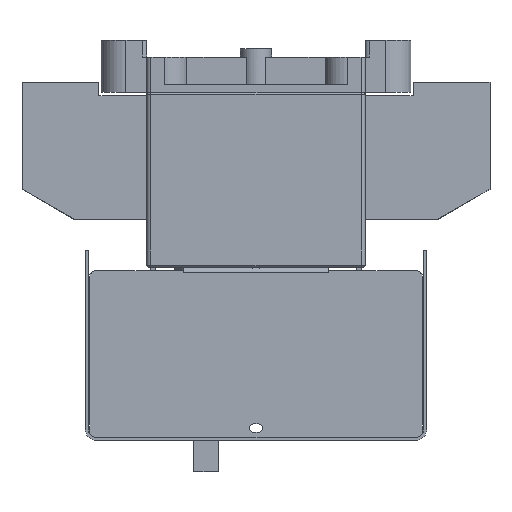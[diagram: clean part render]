
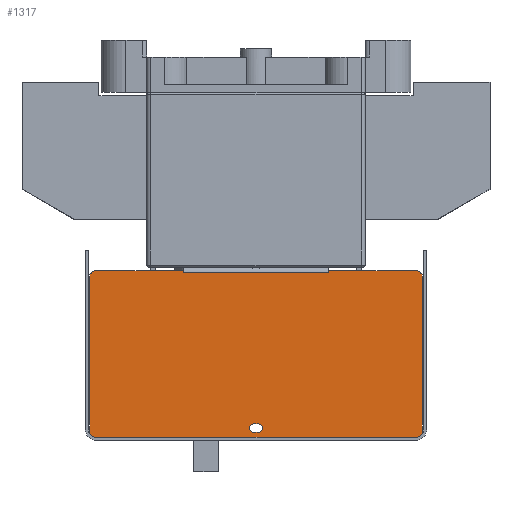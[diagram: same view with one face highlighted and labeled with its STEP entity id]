
A CAD part, left-side view. The second image highlights one B-rep face of the part: STEP entity #1317.
In plain terms, the highlighted planar face has unit normal (-1, 0, 0).
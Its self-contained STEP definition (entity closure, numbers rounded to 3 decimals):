
#170=FACE_BOUND('',#4569,.T.);
#171=FACE_BOUND('',#4570,.T.);
#1317=ADVANCED_FACE('',(#170,#171),#2303,.T.);
#2303=PLANE('',#24284);
#4569=EDGE_LOOP('',(#9419,#9420,#9421,#9422,#9423,#9424,#9425,#9426,#9427,
#9428,#9429,#9430,#9431,#9432));
#4570=EDGE_LOOP('',(#9433,#9434,#9435,#9436));
#5667=CIRCLE('',#24262,2.1);
#5669=CIRCLE('',#24266,2.1);
#5671=CIRCLE('',#24270,3.);
#5673=CIRCLE('',#24273,3.);
#5675=CIRCLE('',#24277,3.);
#5677=CIRCLE('',#24281,3.);
#9419=ORIENTED_EDGE('',*,*,#16539,.F.);
#9420=ORIENTED_EDGE('',*,*,#16540,.T.);
#9421=ORIENTED_EDGE('',*,*,#16541,.T.);
#9422=ORIENTED_EDGE('',*,*,#16542,.T.);
#9423=ORIENTED_EDGE('',*,*,#16543,.F.);
#9424=ORIENTED_EDGE('',*,*,#16531,.T.);
#9425=ORIENTED_EDGE('',*,*,#16536,.T.);
#9426=ORIENTED_EDGE('',*,*,#16519,.T.);
#9427=ORIENTED_EDGE('',*,*,#16522,.T.);
#9428=ORIENTED_EDGE('',*,*,#16497,.T.);
#9429=ORIENTED_EDGE('',*,*,#16525,.T.);
#9430=ORIENTED_EDGE('',*,*,#16528,.T.);
#9431=ORIENTED_EDGE('',*,*,#16530,.T.);
#9432=ORIENTED_EDGE('',*,*,#16505,.T.);
#9433=ORIENTED_EDGE('',*,*,#16509,.T.);
#9434=ORIENTED_EDGE('',*,*,#16513,.T.);
#9435=ORIENTED_EDGE('',*,*,#16516,.T.);
#9436=ORIENTED_EDGE('',*,*,#16538,.T.);
#13398=VERTEX_POINT('',#33875);
#13443=VERTEX_POINT('',#33972);
#13727=VERTEX_POINT('',#35063);
#13728=VERTEX_POINT('',#35065);
#13731=VERTEX_POINT('',#35072);
#13732=VERTEX_POINT('',#35074);
#13734=VERTEX_POINT('',#35080);
#13736=VERTEX_POINT('',#35086);
#13739=VERTEX_POINT('',#35093);
#13740=VERTEX_POINT('',#35095);
#13742=VERTEX_POINT('',#35104);
#13744=VERTEX_POINT('',#35110);
#13745=VERTEX_POINT('',#35117);
#13746=VERTEX_POINT('',#35118);
#13749=VERTEX_POINT('',#35132);
#13750=VERTEX_POINT('',#35134);
#13751=VERTEX_POINT('',#35136);
#13752=VERTEX_POINT('',#35138);
#16497=EDGE_CURVE('',#13398,#13443,#19385,.T.);
#16505=EDGE_CURVE('',#13728,#13727,#19392,.T.);
#16509=EDGE_CURVE('',#13732,#13731,#5667,.T.);
#16513=EDGE_CURVE('',#13731,#13734,#19398,.T.);
#16516=EDGE_CURVE('',#13734,#13736,#5669,.T.);
#16519=EDGE_CURVE('',#13740,#13739,#19402,.T.);
#16522=EDGE_CURVE('',#13739,#13398,#5671,.T.);
#16525=EDGE_CURVE('',#13443,#13742,#5673,.T.);
#16528=EDGE_CURVE('',#13742,#13744,#19407,.T.);
#16530=EDGE_CURVE('',#13744,#13728,#5675,.T.);
#16531=EDGE_CURVE('',#13745,#13746,#19408,.T.);
#16536=EDGE_CURVE('',#13746,#13740,#5677,.T.);
#16538=EDGE_CURVE('',#13736,#13732,#19413,.T.);
#16539=EDGE_CURVE('',#13749,#13727,#19414,.T.);
#16540=EDGE_CURVE('',#13749,#13750,#19415,.T.);
#16541=EDGE_CURVE('',#13750,#13751,#19416,.T.);
#16542=EDGE_CURVE('',#13751,#13752,#19417,.T.);
#16543=EDGE_CURVE('',#13745,#13752,#19418,.T.);
#19385=LINE('',#35046,#21961);
#19392=LINE('',#35064,#21968);
#19398=LINE('',#35081,#21974);
#19402=LINE('',#35094,#21978);
#19407=LINE('',#35111,#21983);
#19408=LINE('',#35116,#21984);
#19413=LINE('',#35129,#21989);
#19414=LINE('',#35131,#21990);
#19415=LINE('',#35133,#21991);
#19416=LINE('',#35135,#21992);
#19417=LINE('',#35137,#21993);
#19418=LINE('',#35139,#21994);
#21961=VECTOR('',#28507,1.);
#21968=VECTOR('',#28520,1.);
#21974=VECTOR('',#28534,1.);
#21978=VECTOR('',#28546,1.);
#21983=VECTOR('',#28565,1.);
#21984=VECTOR('',#28574,1.);
#21989=VECTOR('',#28587,1.);
#21990=VECTOR('',#28590,1.);
#21991=VECTOR('',#28591,1.);
#21992=VECTOR('',#28592,1.);
#21993=VECTOR('',#28593,1.);
#21994=VECTOR('',#28594,1.);
#24262=AXIS2_PLACEMENT_3D('',#35073,#28527,#28528);
#24266=AXIS2_PLACEMENT_3D('',#35087,#28540,#28541);
#24270=AXIS2_PLACEMENT_3D('',#35099,#28552,#28553);
#24273=AXIS2_PLACEMENT_3D('',#35105,#28559,#28560);
#24277=AXIS2_PLACEMENT_3D('',#35114,#28570,#28571);
#24281=AXIS2_PLACEMENT_3D('',#35126,#28582,#28583);
#24284=AXIS2_PLACEMENT_3D('',#35140,#28595,#28596);
#28507=DIRECTION('',(0.,-1.,0.));
#28520=DIRECTION('',(0.,1.,0.));
#28527=DIRECTION('',(1.,0.,0.));
#28528=DIRECTION('',(0.,1.,0.));
#28534=DIRECTION('',(0.,-1.,0.));
#28540=DIRECTION('',(1.,0.,0.));
#28541=DIRECTION('',(0.,1.,0.));
#28546=DIRECTION('',(0.,0.,-1.));
#28552=DIRECTION('',(-1.,0.,0.));
#28553=DIRECTION('',(0.,1.,0.));
#28559=DIRECTION('',(-1.,0.,0.));
#28560=DIRECTION('',(0.,1.,0.));
#28565=DIRECTION('',(0.,0.,1.));
#28570=DIRECTION('',(-1.,0.,0.));
#28571=DIRECTION('',(0.,1.,0.));
#28574=DIRECTION('',(0.,1.,0.));
#28582=DIRECTION('',(-1.,0.,0.));
#28583=DIRECTION('',(0.,1.,0.));
#28587=DIRECTION('',(0.,1.,0.));
#28590=DIRECTION('',(0.,0.,1.));
#28591=DIRECTION('',(0.,1.,0.));
#28592=DIRECTION('',(0.,1.,0.));
#28593=DIRECTION('',(0.,1.,0.));
#28594=DIRECTION('',(0.,0.,-1.));
#28595=DIRECTION('',(-1.,0.,0.));
#28596=DIRECTION('',(0.,-1.,0.));
#33875=CARTESIAN_POINT('',(-189.3,77.,-165.8));
#33972=CARTESIAN_POINT('',(-189.3,-77.,-165.8));
#35046=CARTESIAN_POINT('',(-189.3,77.,-165.8));
#35063=CARTESIAN_POINT('',(-189.3,-35.002,-85.8));
#35064=CARTESIAN_POINT('',(-189.3,-77.,-85.8));
#35065=CARTESIAN_POINT('',(-189.3,-77.,-85.8));
#35072=CARTESIAN_POINT('',(-189.3,1.,-159.3));
#35073=CARTESIAN_POINT('',(-189.3,1.,-161.4));
#35074=CARTESIAN_POINT('',(-189.3,1.,-163.5));
#35080=CARTESIAN_POINT('',(-189.3,-1.,-159.3));
#35081=CARTESIAN_POINT('',(-189.3,1.,-159.3));
#35086=CARTESIAN_POINT('',(-189.3,-1.,-163.5));
#35087=CARTESIAN_POINT('',(-189.3,-1.,-161.4));
#35093=CARTESIAN_POINT('',(-189.3,80.,-162.8));
#35094=CARTESIAN_POINT('',(-189.3,80.,-88.8));
#35095=CARTESIAN_POINT('',(-189.3,80.,-88.8));
#35099=CARTESIAN_POINT('',(-189.3,77.,-162.8));
#35104=CARTESIAN_POINT('',(-189.3,-80.,-162.8));
#35105=CARTESIAN_POINT('',(-189.3,-77.,-162.8));
#35110=CARTESIAN_POINT('',(-189.3,-80.,-88.8));
#35111=CARTESIAN_POINT('',(-189.3,-80.,-162.8));
#35114=CARTESIAN_POINT('',(-189.3,-77.,-88.8));
#35116=CARTESIAN_POINT('',(-189.3,-77.,-85.8));
#35117=CARTESIAN_POINT('',(-189.3,35.002,-85.8));
#35118=CARTESIAN_POINT('',(-189.3,77.,-85.8));
#35126=CARTESIAN_POINT('',(-189.3,77.,-88.8));
#35129=CARTESIAN_POINT('',(-189.3,-1.,-163.5));
#35131=CARTESIAN_POINT('',(-189.3,-35.002,-162.8));
#35132=CARTESIAN_POINT('',(-189.3,-35.002,-86.8));
#35133=CARTESIAN_POINT('',(-189.3,77.,-86.8));
#35134=CARTESIAN_POINT('',(-189.3,-35.,-86.8));
#35135=CARTESIAN_POINT('',(-189.3,50.5,-86.8));
#35136=CARTESIAN_POINT('',(-189.3,35.,-86.8));
#35137=CARTESIAN_POINT('',(-189.3,77.,-86.8));
#35138=CARTESIAN_POINT('',(-189.3,35.002,-86.8));
#35139=CARTESIAN_POINT('',(-189.3,35.002,-162.8));
#35140=CARTESIAN_POINT('',(-189.3,77.,-162.8));
